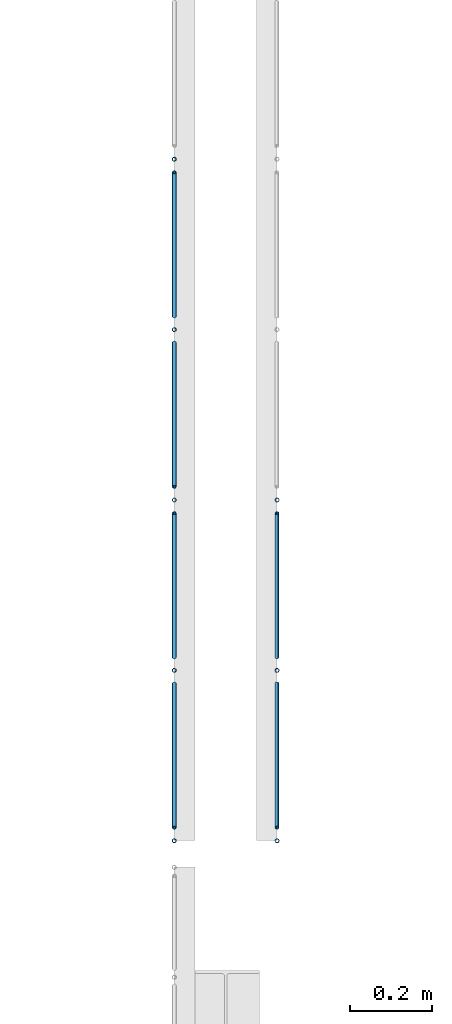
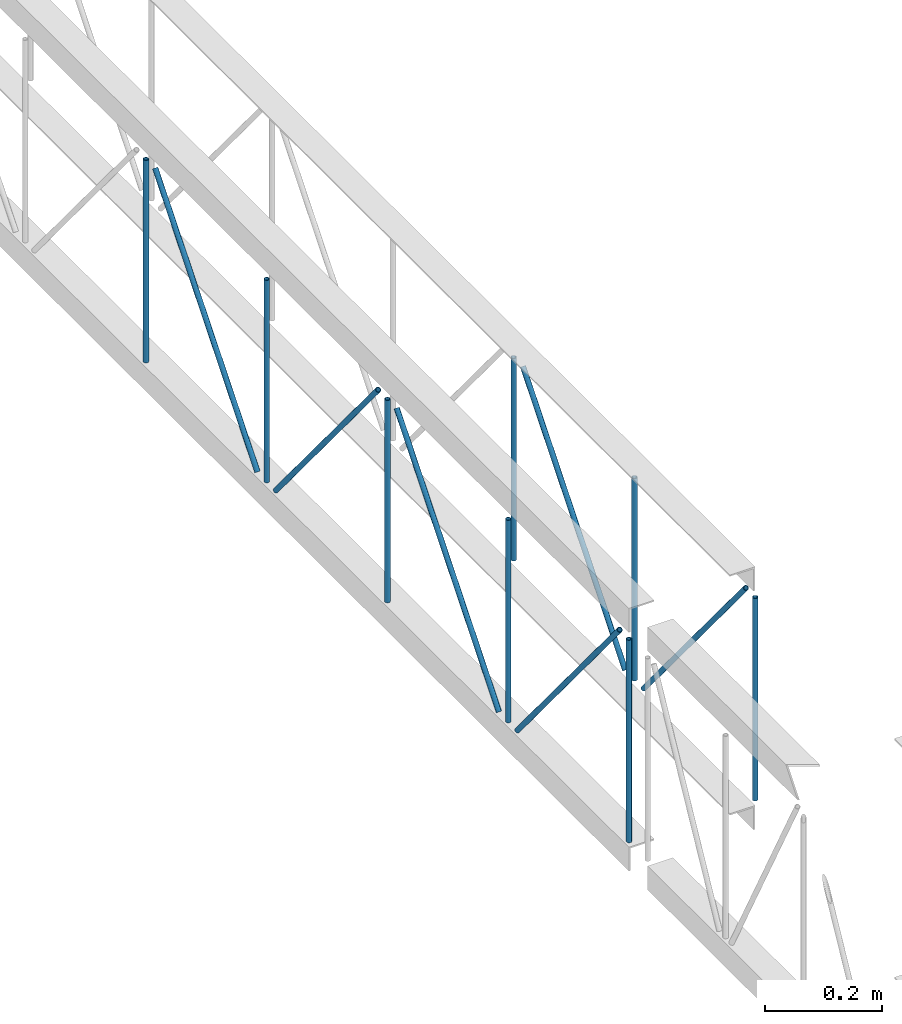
# One storey, part 26 of 153: 14 members, 2 elements without a shape of their own.
"""IFC4 building model written with IfcOpenShell, lengths in metres."""

from ifc_helpers import new_model, entity, si_unit, converted_unit, derived_unit, direction, frame, origin, place, context, subcontext, project, spatial, arc, indexed_curve, outline, extrude, source, transform, mapped, material, type_object, type_shapes, element, aggregate, save


model = new_model("IFC4")

# Units and contexts
model_context = context("Model", 3, precision=1e-05, world=origin(), true_north=direction((6.123031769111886e-17, 1.0)))
body_context = subcontext(model_context, "Body", "Model", "MODEL_VIEW")
ifc_project = project(units=[si_unit("LENGTHUNIT", "METRE"), si_unit("AREAUNIT", "SQUARE_METRE"), si_unit("VOLUMEUNIT", "CUBIC_METRE"), converted_unit("PLANEANGLEUNIT", "DEGREE", entity("IfcRatioMeasure", 0.017453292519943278), si_unit("PLANEANGLEUNIT", "RADIAN"), dimensions=[0, 0, 0, 0, 0, 0, 0]), si_unit("MASSUNIT", "GRAM", prefix="KILO"), derived_unit("MASSDENSITYUNIT", [(si_unit("MASSUNIT", "GRAM", prefix="KILO"), 1), (si_unit("LENGTHUNIT", "METRE"), -3)]), derived_unit("MOMENTOFINERTIAUNIT", [(si_unit("LENGTHUNIT", "METRE"), 4)]), si_unit("TIMEUNIT", "SECOND"), si_unit("FREQUENCYUNIT", "HERTZ"), si_unit("THERMODYNAMICTEMPERATUREUNIT", "DEGREE_CELSIUS"), derived_unit("THERMALTRANSMITTANCEUNIT", [(si_unit("MASSUNIT", "GRAM", prefix="KILO"), 1), (si_unit("THERMODYNAMICTEMPERATUREUNIT", "KELVIN"), -1), (si_unit("TIMEUNIT", "SECOND"), -3)]), derived_unit("VOLUMETRICFLOWRATEUNIT", [(si_unit("LENGTHUNIT", "METRE"), 3), (si_unit("TIMEUNIT", "SECOND"), -1)]), derived_unit("MASSFLOWRATEUNIT", [(si_unit("MASSUNIT", "GRAM", prefix="KILO"), 1), (si_unit("TIMEUNIT", "SECOND"), -1)]), derived_unit("ROTATIONALFREQUENCYUNIT", [(si_unit("TIMEUNIT", "SECOND"), -1)]), si_unit("ELECTRICCURRENTUNIT", "AMPERE"), si_unit("ELECTRICVOLTAGEUNIT", "VOLT"), si_unit("POWERUNIT", "WATT"), si_unit("FORCEUNIT", "NEWTON", prefix="KILO"), si_unit("ILLUMINANCEUNIT", "LUX"), si_unit("LUMINOUSFLUXUNIT", "LUMEN"), si_unit("LUMINOUSINTENSITYUNIT", "CANDELA"), derived_unit("USERDEFINED", [(si_unit("MASSUNIT", "GRAM", prefix="KILO"), -1), (si_unit("LENGTHUNIT", "METRE"), -2), (si_unit("TIMEUNIT", "SECOND"), 3), (si_unit("LUMINOUSFLUXUNIT", "LUMEN"), 1)]), derived_unit("SOUNDPOWERUNIT", [(si_unit("MASSUNIT", "GRAM", prefix="KILO"), 1), (si_unit("LENGTHUNIT", "METRE"), 2), (si_unit("TIMEUNIT", "SECOND"), -3)]), derived_unit("SOUNDPRESSUREUNIT", [(si_unit("MASSUNIT", "GRAM", prefix="KILO"), 1), (si_unit("LENGTHUNIT", "METRE"), -1), (si_unit("TIMEUNIT", "SECOND"), -2)]), derived_unit("LINEARVELOCITYUNIT", [(si_unit("LENGTHUNIT", "METRE"), 1), (si_unit("TIMEUNIT", "SECOND"), -1)]), si_unit("PRESSUREUNIT", "PASCAL"), derived_unit("USERDEFINED", [(si_unit("LENGTHUNIT", "METRE"), -2), (si_unit("MASSUNIT", "GRAM", prefix="KILO"), 1), (si_unit("TIMEUNIT", "SECOND"), -2)]), derived_unit("LINEARFORCEUNIT", [(si_unit("MASSUNIT", "GRAM", prefix="KILO"), 1), (si_unit("LENGTHUNIT", "METRE"), 1), (si_unit("TIMEUNIT", "SECOND"), -2), (si_unit("LENGTHUNIT", "METRE"), -1)]), derived_unit("PLANARFORCEUNIT", [(si_unit("MASSUNIT", "GRAM", prefix="KILO"), 1), (si_unit("LENGTHUNIT", "METRE"), 1), (si_unit("TIMEUNIT", "SECOND"), -2), (si_unit("LENGTHUNIT", "METRE"), -2)])], contexts=[model_context])

# Site, building, storey
site_placement = place(None, origin())
site = spatial("IfcSite", under=ifc_project, at=site_placement, Name="Superficie", CompositionType="ELEMENT")
building_placement = place(site_placement, origin())
building = spatial("IfcBuilding", under=site, at=building_placement, CompositionType="ELEMENT")
storey_placement = place(building_placement, frame((0.0, 0.0, 3.5999999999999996)))
storey = spatial("IfcBuildingStorey", under=building, at=storey_placement, Name="Nivel 1", CompositionType="ELEMENT", Elevation=3.5999999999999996)

# Assembly, members
assembly_1_placement = place(storey_placement, origin())
assembly_1 = element("IfcElementAssembly", 1, at=assembly_1_placement, inside=storey, Name="Viga de celosia 13:Viga de celosia 13", ObjectType="Viga de celosia 13:Viga de celosia 13", AssemblyPlace="NOTDEFINED", PredefinedType="TRUSS")
ifc_material = material(Name="Metal - Calibre delgado", Category="Metal")
member_type_1 = type_object("IfcMemberType", Name="HSS-Tubo estructural redondo:HSS 0.01", PredefinedType="BRACE", material=ifc_material)
shared_shape_1 = source(origin(), body_context, "Body", "SweptSolid", [
    extrude(outline(indexed_curve([(-0.005000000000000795, 7.502054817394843e-18), (-9.800269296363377e-18, -0.005000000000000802), (0.005000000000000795, -7.502054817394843e-18), (8.07772287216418e-18, 0.005000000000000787)], segments=[arc(1, 2, 3), arc(3, 4, 1)], self_intersect=False), holes=[indexed_curve([(0.003999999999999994, 7.222511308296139e-17), (6.910645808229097e-17, -0.004000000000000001), (-0.003999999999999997, -1.8650054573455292e-17), (-2.9156497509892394e-17, 0.003999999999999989)], segments=[arc(1, 2, 3), arc(3, 4, 1)], self_intersect=False)]), frame((-0.21200000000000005, 0.0, 0.0), z_axis=(1.0, 0.0, 0.0), x_axis=(0.0, 1.0, 0.0)), (0.0, 0.0, 1.0), 0.4240000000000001),
])
type_shapes(member_type_1, [shared_shape_1])
member_1_placement = place(assembly_1_placement, frame((-13.813200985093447, -9.134451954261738, 0.25), z_axis=(0.0, 1.0, 0.0), x_axis=(0.0, 0.0, 1.0)))
member_1 = element("IfcMember", 2, at=member_1_placement, type_object=member_type_1, material=ifc_material, Name="HSS-Tubo estructural redondo:HSS 0.01", ObjectType="HSS-Tubo estructural redondo:HSS 0.01", PredefinedType="BRACE", context=body_context, shape_type="MappedRepresentation", body=[
    mapped(shared_shape_1, transform((0.0, 0.0, 0.0), scale=1.0)),
])
member_2_placement = place(assembly_1_placement, frame((-13.813200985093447, -8.720105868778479, 0.25), z_axis=(0.0, 1.0, 0.0), x_axis=(0.0, 0.0, 1.0)))
member_2 = element("IfcMember", 3, at=member_2_placement, type_object=member_type_1, material=ifc_material, Name="HSS-Tubo estructural redondo:HSS 0.01", ObjectType="HSS-Tubo estructural redondo:HSS 0.01", PredefinedType="BRACE", context=body_context, shape_type="MappedRepresentation", body=[
    mapped(shared_shape_1, transform((0.0, 0.0, 0.0), scale=1.0)),
])
member_3_placement = place(assembly_1_placement, frame((-13.813200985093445, -8.305759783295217, 0.25), z_axis=(0.0, 1.0, 0.0), x_axis=(0.0, 0.0, 1.0)))
member_3 = element("IfcMember", 4, at=member_3_placement, type_object=member_type_1, material=ifc_material, Name="HSS-Tubo estructural redondo:HSS 0.01", ObjectType="HSS-Tubo estructural redondo:HSS 0.01", PredefinedType="BRACE", context=body_context, shape_type="MappedRepresentation", body=[
    mapped(shared_shape_1, transform((0.0, 0.0, 0.0), scale=1.0)),
])
member_4_placement = place(assembly_1_placement, frame((-13.813200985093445, -7.891413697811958, 0.25), z_axis=(0.0, 1.0, 0.0), x_axis=(0.0, 0.0, 1.0)))
member_4 = element("IfcMember", 5, at=member_4_placement, type_object=member_type_1, material=ifc_material, Name="HSS-Tubo estructural redondo:HSS 0.01", ObjectType="HSS-Tubo estructural redondo:HSS 0.01", PredefinedType="BRACE", context=body_context, shape_type="MappedRepresentation", body=[
    mapped(shared_shape_1, transform((0.0, 0.0, 0.0), scale=1.0)),
])
member_5_placement = place(assembly_1_placement, frame((-13.813200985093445, -7.477067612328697, 0.25), z_axis=(0.0, 1.0, 0.0), x_axis=(0.0, 0.0, 1.0)))
member_5 = element("IfcMember", 6, at=member_5_placement, type_object=member_type_1, material=ifc_material, Name="HSS-Tubo estructural redondo:HSS 0.01", ObjectType="HSS-Tubo estructural redondo:HSS 0.01", PredefinedType="BRACE", context=body_context, shape_type="MappedRepresentation", body=[
    mapped(shared_shape_1, transform((0.0, 0.0, 0.0), scale=1.0)),
])
member_type_2 = type_object("IfcMemberType", Name="HSS-Tubo estructural redondo:HSS 0.01", PredefinedType="BRACE", material=ifc_material)
shared_shape_2 = source(origin(), body_context, "Body", "SweptSolid", [
    extrude(outline(indexed_curve([(-0.005000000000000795, 7.502054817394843e-18), (-9.800269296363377e-18, -0.005000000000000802), (0.005000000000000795, -7.502054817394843e-18), (8.07772287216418e-18, 0.005000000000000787)], segments=[arc(1, 2, 3), arc(3, 4, 1)], self_intersect=False), holes=[indexed_curve([(0.003999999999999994, 7.222511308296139e-17), (6.910645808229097e-17, -0.004000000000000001), (-0.003999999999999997, -1.8650054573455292e-17), (-2.9156497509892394e-17, 0.003999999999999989)], segments=[arc(1, 2, 3), arc(3, 4, 1)], self_intersect=False)]), frame((-0.275, 0.0, 0.0), z_axis=(1.0, 0.0, 0.0), x_axis=(0.0, 1.0, 0.0)), (0.0, 0.0, 1.0), 0.55),
])
type_shapes(member_type_2, [shared_shape_2])
member_6_placement = place(assembly_1_placement, frame((-13.813200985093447, -8.92727891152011, 0.25), z_axis=(0.0, -0.7699758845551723, -0.638072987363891), x_axis=(0.0, 0.638072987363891, -0.7699758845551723)))
member_6 = element("IfcMember", 7, at=member_6_placement, type_object=member_type_2, material=ifc_material, Name="HSS-Tubo estructural redondo:HSS 0.01", ObjectType="HSS-Tubo estructural redondo:HSS 0.01", PredefinedType="BRACE", context=body_context, shape_type="MappedRepresentation", body=[
    mapped(shared_shape_2, transform((0.0, 0.0, 0.0), scale=1.0)),
])
member_7_placement = place(assembly_1_placement, frame((-13.813200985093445, -8.512932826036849, 0.25), z_axis=(0.0, 0.7699758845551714, -0.638072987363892), x_axis=(0.0, 0.638072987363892, 0.7699758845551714)))
member_7 = element("IfcMember", 8, at=member_7_placement, type_object=member_type_2, material=ifc_material, Name="HSS-Tubo estructural redondo:HSS 0.01", ObjectType="HSS-Tubo estructural redondo:HSS 0.01", PredefinedType="BRACE", context=body_context, shape_type="MappedRepresentation", body=[
    mapped(shared_shape_2, transform((0.0, 0.0, 0.0), scale=1.0)),
])
member_8_placement = place(assembly_1_placement, frame((-13.813200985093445, -8.098586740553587, 0.25), z_axis=(0.0, -0.7699758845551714, -0.638072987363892), x_axis=(0.0, 0.638072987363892, -0.7699758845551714)))
member_8 = element("IfcMember", 9, at=member_8_placement, type_object=member_type_2, material=ifc_material, Name="HSS-Tubo estructural redondo:HSS 0.01", ObjectType="HSS-Tubo estructural redondo:HSS 0.01", PredefinedType="BRACE", context=body_context, shape_type="MappedRepresentation", body=[
    mapped(shared_shape_2, transform((0.0, 0.0, 0.0), scale=1.0)),
])
member_9_placement = place(assembly_1_placement, frame((-13.813200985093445, -7.684240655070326, 0.25000000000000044), z_axis=(0.0, 0.7699758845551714, -0.638072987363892), x_axis=(0.0, 0.638072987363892, 0.7699758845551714)))
member_9 = element("IfcMember", 10, at=member_9_placement, type_object=member_type_2, material=ifc_material, Name="HSS-Tubo estructural redondo:HSS 0.01", ObjectType="HSS-Tubo estructural redondo:HSS 0.01", PredefinedType="BRACE", context=body_context, shape_type="MappedRepresentation", body=[
    mapped(shared_shape_2, transform((0.0, 0.0, 0.0), scale=1.0)),
])
aggregate(assembly_1, [member_1, member_2, member_3, member_4, member_5, member_6, member_7, member_8, member_9])

assembly_2_placement = place(storey_placement, origin())
assembly_2 = element("IfcElementAssembly", 11, at=assembly_2_placement, inside=storey, Name="Viga de celosia 13:Viga de celosia 13", ObjectType="Viga de celosia 13:Viga de celosia 13", AssemblyPlace="NOTDEFINED", PredefinedType="TRUSS")
member_type_3 = type_object("IfcMemberType", Name="HSS-Tubo estructural redondo:HSS 0.01", PredefinedType="BRACE", material=ifc_material)
shared_shape_3 = source(origin(), body_context, "Body", "SweptSolid", [
    extrude(outline(indexed_curve([(-0.005000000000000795, 2.0824731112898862e-17), (-2.3122945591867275e-17, -0.005000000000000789), (0.005000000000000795, -2.08247311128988e-17), (2.14003991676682e-17, 0.005000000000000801)], segments=[arc(1, 2, 3), arc(3, 4, 1)], self_intersect=False), holes=[indexed_curve([(0.003999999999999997, -1.3094283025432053e-17), (-1.531427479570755e-18, -0.003999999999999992), (-0.004, 4.0098531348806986e-17), (4.1481388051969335e-17, 0.0039999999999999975)], segments=[arc(1, 2, 3), arc(3, 4, 1)], self_intersect=False)]), frame((-0.21200000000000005, 0.0, 0.0), z_axis=(1.0, 0.0, 0.0), x_axis=(0.0, -1.0, 0.0)), (0.0, 0.0, 1.0), 0.4240000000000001),
])
type_shapes(member_type_3, [shared_shape_3])
member_10_placement = place(assembly_2_placement, frame((-13.563200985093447, -9.134451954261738, 0.25), z_axis=(0.0, 1.0, 0.0), x_axis=(0.0, 0.0, 1.0)))
member_10 = element("IfcMember", 12, at=member_10_placement, type_object=member_type_3, material=ifc_material, Name="HSS-Tubo estructural redondo:HSS 0.01", ObjectType="HSS-Tubo estructural redondo:HSS 0.01", PredefinedType="BRACE", context=body_context, shape_type="MappedRepresentation", body=[
    mapped(shared_shape_3, transform((0.0, 0.0, 0.0), scale=1.0)),
])
member_11_placement = place(assembly_2_placement, frame((-13.563200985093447, -8.720105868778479, 0.25), z_axis=(0.0, 1.0, 0.0), x_axis=(0.0, 0.0, 1.0)))
member_11 = element("IfcMember", 13, at=member_11_placement, type_object=member_type_3, material=ifc_material, Name="HSS-Tubo estructural redondo:HSS 0.01", ObjectType="HSS-Tubo estructural redondo:HSS 0.01", PredefinedType="BRACE", context=body_context, shape_type="MappedRepresentation", body=[
    mapped(shared_shape_3, transform((0.0, 0.0, 0.0), scale=1.0)),
])
member_12_placement = place(assembly_2_placement, frame((-13.56320098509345, -8.305759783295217, 0.25), z_axis=(0.0, 1.0, 0.0), x_axis=(0.0, 0.0, 1.0)))
member_12 = element("IfcMember", 14, at=member_12_placement, type_object=member_type_3, material=ifc_material, Name="HSS-Tubo estructural redondo:HSS 0.01", ObjectType="HSS-Tubo estructural redondo:HSS 0.01", PredefinedType="BRACE", context=body_context, shape_type="MappedRepresentation", body=[
    mapped(shared_shape_3, transform((0.0, 0.0, 0.0), scale=1.0)),
])
member_type_4 = type_object("IfcMemberType", Name="HSS-Tubo estructural redondo:HSS 0.01", PredefinedType="BRACE", material=ifc_material)
shared_shape_4 = source(origin(), body_context, "Body", "SweptSolid", [
    extrude(outline(indexed_curve([(-0.005000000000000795, 2.0824731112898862e-17), (-2.3122945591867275e-17, -0.005000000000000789), (0.005000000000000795, -2.08247311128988e-17), (2.14003991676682e-17, 0.005000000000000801)], segments=[arc(1, 2, 3), arc(3, 4, 1)], self_intersect=False), holes=[indexed_curve([(0.003999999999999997, -1.3094283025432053e-17), (-1.531427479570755e-18, -0.003999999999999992), (-0.004, 4.0098531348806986e-17), (4.1481388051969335e-17, 0.0039999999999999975)], segments=[arc(1, 2, 3), arc(3, 4, 1)], self_intersect=False)]), frame((-0.275, 0.0, 0.0), z_axis=(1.0, 0.0, 0.0), x_axis=(0.0, -1.0, 0.0)), (0.0, 0.0, 1.0), 0.55),
])
type_shapes(member_type_4, [shared_shape_4])
member_13_placement = place(assembly_2_placement, frame((-13.563200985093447, -8.92727891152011, 0.25), z_axis=(0.0, -0.7699758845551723, -0.638072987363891), x_axis=(0.0, 0.638072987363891, -0.7699758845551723)))
member_13 = element("IfcMember", 15, at=member_13_placement, type_object=member_type_4, material=ifc_material, Name="HSS-Tubo estructural redondo:HSS 0.01", ObjectType="HSS-Tubo estructural redondo:HSS 0.01", PredefinedType="BRACE", context=body_context, shape_type="MappedRepresentation", body=[
    mapped(shared_shape_4, transform((0.0, 0.0, 0.0), scale=1.0)),
])
member_14_placement = place(assembly_2_placement, frame((-13.56320098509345, -8.512932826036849, 0.25), z_axis=(0.0, 0.7699758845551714, -0.638072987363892), x_axis=(0.0, 0.638072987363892, 0.7699758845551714)))
member_14 = element("IfcMember", 16, at=member_14_placement, type_object=member_type_4, material=ifc_material, Name="HSS-Tubo estructural redondo:HSS 0.01", ObjectType="HSS-Tubo estructural redondo:HSS 0.01", PredefinedType="BRACE", context=body_context, shape_type="MappedRepresentation", body=[
    mapped(shared_shape_4, transform((0.0, 0.0, 0.0), scale=1.0)),
])
aggregate(assembly_2, [member_10, member_11, member_12, member_13, member_14])

save(model, "model.ifc")
